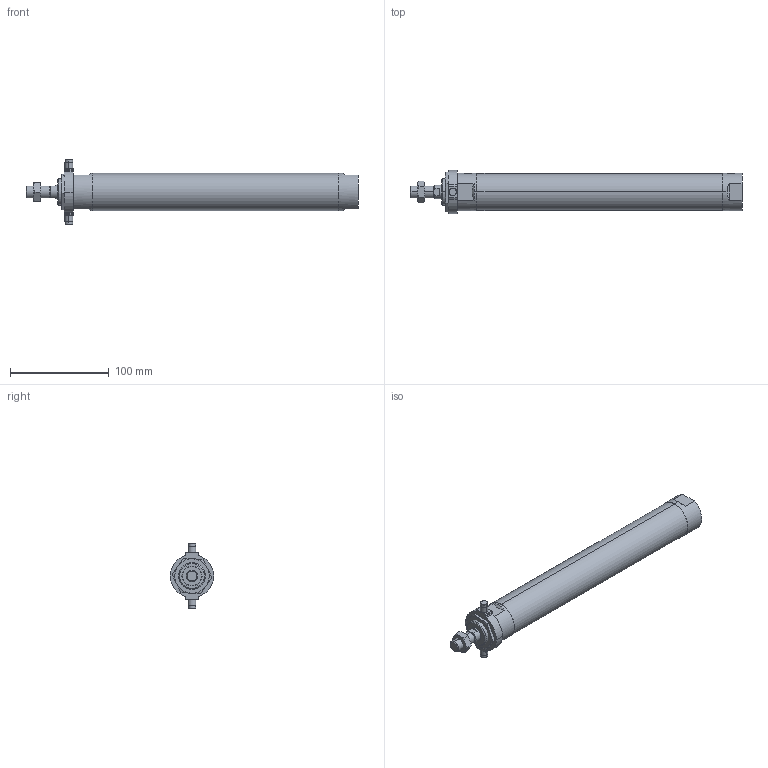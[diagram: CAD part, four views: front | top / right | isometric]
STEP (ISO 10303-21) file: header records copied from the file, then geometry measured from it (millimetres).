
FILE_DESCRIPTION (( 'STEP AP203' ), '1' );
FILE_NAME ('JGND2-32-200-T.STEP', '2016-08-04T02:57:49', ( '' ), ( '' ), 'SwSTEP 2.0', 'SolidWorks 2014', '' );
FILE_SCHEMA (( 'CONFIG_CONTROL_DESIGN' ));
Length unit declared in the file: millimetre
Products named in the file (5): J#2-32-T; J#2-32-200(P); JGND2-32-200-T
Assembly tree (4 placements, depth 2):
  JGND2-32-200-T
    J#2-32-200(P)
    (unnamed)
    (unnamed)
    J#2-32-T
Bounding box: 337 x 44 x 66 mm (x, y, z)
Volume: 343817.5 mm3; surface area: 47509.4 mm2
Topology: 4 solids, 4 shells, 128 faces, 293 edges, 177 vertices
Faces by surface type: plane 42, cylinder 41, torus 24, cone 21
Entity records: 4519 total; most frequent: CARTESIAN_POINT 1160, DIRECTION 614, ORIENTED_EDGE 578, EDGE_CURVE 289, AXIS2_PLACEMENT_3D 253, VERTEX_POINT 177, EDGE_LOOP 142, FACE_OUTER_BOUND 128
